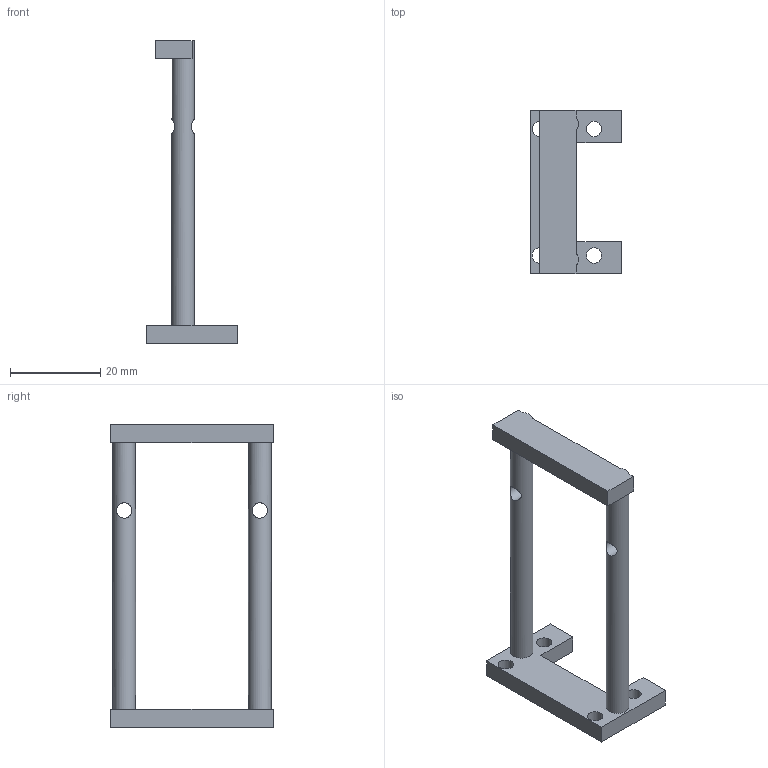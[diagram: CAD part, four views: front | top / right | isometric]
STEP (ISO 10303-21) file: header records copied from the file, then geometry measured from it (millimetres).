
FILE_DESCRIPTION(('Open CASCADE Model'),'2;1');
FILE_NAME('F09-TWR','2026-11-15T22:32:11',('Author'),('Open CASCADE'), 'Open CASCADE STEP processor 8.0','build123d','Unknown');
FILE_SCHEMA(('AUTOMOTIVE_DESIGN { 1 0 10303 214 1 1 1 1 }'));
Length unit declared in the file: millimetre
Products named in the file (1): F09-TWR
Bounding box: 20 x 36 x 67 mm (x, y, z)
Volume: 5245.8 mm3; surface area: 4388.9 mm2
Topology: 1 solids, 1 shells, 26 faces, 76 edges, 50 vertices
Faces by surface type: plane 18, cylinder 8
Full cylindrical faces by diameter (mm): 3.4 x6, 5 x2
Entity records: 3164 total; most frequent: CARTESIAN_POINT 1667, DIRECTION 256, LINE 154, VECTOR 154, ORIENTED_EDGE 152, PCURVE 152, DEFINITIONAL_REPRESENTATION 152, EDGE_CURVE 76
